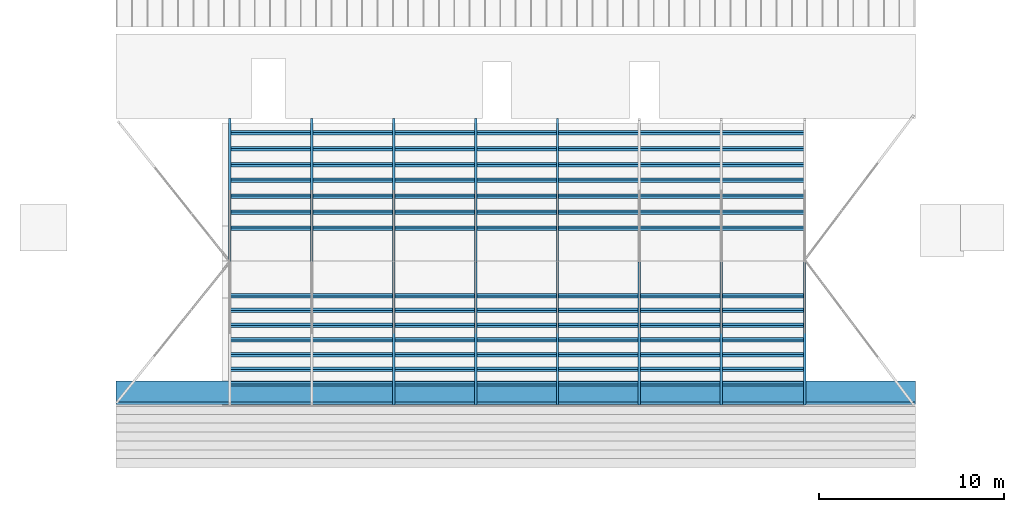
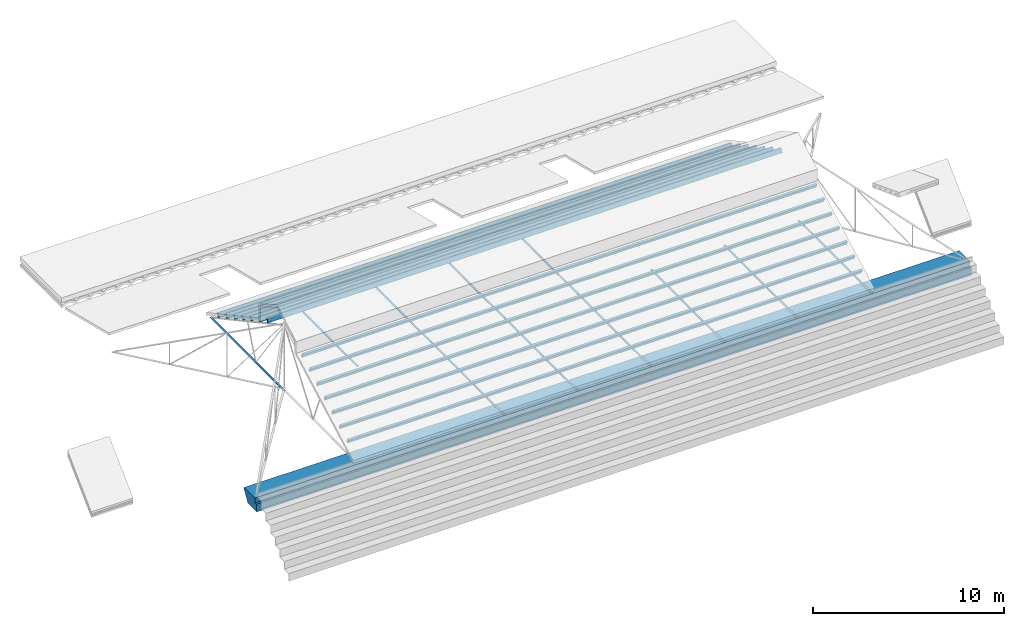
# One storey, part 7 of 15: 26 beams, 10 elements without a shape of their own.
"""IFC4 building model written with IfcOpenShell, lengths in metres."""

from ifc_helpers import new_model, entity, si_unit, converted_unit, derived_unit, direction, frame, origin, place, context, subcontext, project, spatial, line, arc, indexed_curve, outline, extrude, source, transform, mapped, material, type_object, type_shapes, element, aggregate, save


model = new_model("IFC4")

# Units and contexts
model_context = context("Model", 3, precision=1e-05, world=origin(), true_north=direction((6.123031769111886e-17, 1.0)))
body_context = subcontext(model_context, "Body", "Model", "MODEL_VIEW")
ifc_project = project(units=[si_unit("LENGTHUNIT", "METRE"), si_unit("AREAUNIT", "SQUARE_METRE"), si_unit("VOLUMEUNIT", "CUBIC_METRE"), converted_unit("PLANEANGLEUNIT", "DEGREE", entity("IfcRatioMeasure", 0.017453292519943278), si_unit("PLANEANGLEUNIT", "RADIAN"), dimensions=[0, 0, 0, 0, 0, 0, 0]), si_unit("MASSUNIT", "GRAM", prefix="KILO"), derived_unit("MASSDENSITYUNIT", [(si_unit("MASSUNIT", "GRAM", prefix="KILO"), 1), (si_unit("LENGTHUNIT", "METRE"), -3)]), derived_unit("MOMENTOFINERTIAUNIT", [(si_unit("LENGTHUNIT", "METRE"), 4)]), si_unit("TIMEUNIT", "SECOND"), si_unit("FREQUENCYUNIT", "HERTZ"), si_unit("THERMODYNAMICTEMPERATUREUNIT", "DEGREE_CELSIUS"), derived_unit("THERMALTRANSMITTANCEUNIT", [(si_unit("MASSUNIT", "GRAM", prefix="KILO"), 1), (si_unit("THERMODYNAMICTEMPERATUREUNIT", "KELVIN"), -1), (si_unit("TIMEUNIT", "SECOND"), -3)]), derived_unit("VOLUMETRICFLOWRATEUNIT", [(si_unit("LENGTHUNIT", "METRE"), 3), (si_unit("TIMEUNIT", "SECOND"), -1)]), derived_unit("MASSFLOWRATEUNIT", [(si_unit("MASSUNIT", "GRAM", prefix="KILO"), 1), (si_unit("TIMEUNIT", "SECOND"), -1)]), derived_unit("ROTATIONALFREQUENCYUNIT", [(si_unit("TIMEUNIT", "SECOND"), -1)]), si_unit("ELECTRICCURRENTUNIT", "AMPERE"), si_unit("ELECTRICVOLTAGEUNIT", "VOLT"), si_unit("POWERUNIT", "WATT"), si_unit("FORCEUNIT", "NEWTON", prefix="KILO"), si_unit("ILLUMINANCEUNIT", "LUX"), si_unit("LUMINOUSFLUXUNIT", "LUMEN"), si_unit("LUMINOUSINTENSITYUNIT", "CANDELA"), derived_unit("USERDEFINED", [(si_unit("MASSUNIT", "GRAM", prefix="KILO"), -1), (si_unit("LENGTHUNIT", "METRE"), -2), (si_unit("TIMEUNIT", "SECOND"), 3), (si_unit("LUMINOUSFLUXUNIT", "LUMEN"), 1)]), derived_unit("SOUNDPOWERUNIT", [(si_unit("MASSUNIT", "GRAM", prefix="KILO"), 1), (si_unit("LENGTHUNIT", "METRE"), 2), (si_unit("TIMEUNIT", "SECOND"), -3)]), derived_unit("SOUNDPRESSUREUNIT", [(si_unit("MASSUNIT", "GRAM", prefix="KILO"), 1), (si_unit("LENGTHUNIT", "METRE"), -1), (si_unit("TIMEUNIT", "SECOND"), -2)]), derived_unit("LINEARVELOCITYUNIT", [(si_unit("LENGTHUNIT", "METRE"), 1), (si_unit("TIMEUNIT", "SECOND"), -1)]), si_unit("PRESSUREUNIT", "PASCAL"), derived_unit("USERDEFINED", [(si_unit("LENGTHUNIT", "METRE"), -2), (si_unit("MASSUNIT", "GRAM", prefix="KILO"), 1), (si_unit("TIMEUNIT", "SECOND"), -2)]), derived_unit("LINEARFORCEUNIT", [(si_unit("MASSUNIT", "GRAM", prefix="KILO"), 1), (si_unit("LENGTHUNIT", "METRE"), 1), (si_unit("TIMEUNIT", "SECOND"), -2), (si_unit("LENGTHUNIT", "METRE"), -1)]), derived_unit("PLANARFORCEUNIT", [(si_unit("MASSUNIT", "GRAM", prefix="KILO"), 1), (si_unit("LENGTHUNIT", "METRE"), 1), (si_unit("TIMEUNIT", "SECOND"), -2), (si_unit("LENGTHUNIT", "METRE"), -2)])], contexts=[model_context])

# Site, building, storey
site_placement = place(None, origin())
site = spatial("IfcSite", under=ifc_project, at=site_placement, Name="Superficie", CompositionType="ELEMENT")
building_placement = place(site_placement, origin())
building = spatial("IfcBuilding", under=site, at=building_placement, CompositionType="ELEMENT")
storey_placement = place(building_placement, frame((0.0, 0.0, 7.25)))
storey = spatial("IfcBuildingStorey", under=building, at=storey_placement, Name="Nivel 2", CompositionType="ELEMENT", Elevation=7.25)

# Beam
ifc_material_1 = material(Name="<Unnamed>")
beam_type_1 = type_object("IfcBeamType", Name="Familia4:Familia4", PredefinedType="BEAM", material=ifc_material_1)
shared_shape_1 = source(origin(), body_context, "Body", "SweptSolid", [
    extrude(outline(indexed_curve([(-0.03876765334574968, -0.5432224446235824), (0.4612323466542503, -0.5432224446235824), (0.46123234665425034, 0.36677755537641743), (-0.1816431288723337, 0.753056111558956), (-0.3316431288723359, 0.7530561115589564), (-0.3316431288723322, -0.3932224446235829), (-0.03876765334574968, -0.3932224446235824), (-0.03876765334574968, -0.5432224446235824)], self_intersect=False)), frame((-21.33499999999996, 0.44322244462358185, 0.311232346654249), z_axis=(1.0, 0.0, 0.0), x_axis=(0.0, 0.0, -1.0)), (0.0, 0.0, 1.0), 43.23),
])
type_shapes(beam_type_1, [shared_shape_1])
beam_1_placement = place(storey_placement, frame((-1.308200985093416, -9.594451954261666, -0.6428754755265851)))
element("IfcBeam", 1, at=beam_1_placement, inside=storey, type_object=beam_type_1, material=ifc_material_1, Name="Familia4:Familia4", ObjectType="Familia4:Familia4", PredefinedType="BEAM", context=body_context, shape_type="MappedRepresentation", body=[
    mapped(shared_shape_1, transform((0.0, 0.0, 0.0), scale=1.0)),
])

# Assembly, beam
assembly_1_placement = place(storey_placement, origin())
assembly_1 = element("IfcElementAssembly", 2, at=assembly_1_placement, inside=storey, Name="Cercha 3:Cercha 3", ObjectType="Cercha 3:Cercha 3", AssemblyPlace="NOTDEFINED", PredefinedType="TRUSS")
ifc_material_2 = material(Name="Metal - Acero - 345 MPa", Category="Metal")
beam_type_2 = type_object("IfcBeamType", Name="MT-T estructural:MT65X14.05", PredefinedType="BEAM", material=ifc_material_2)
shared_shape_2 = source(origin(), body_context, "Body", "SweptSolid", [
    extrude(outline(indexed_curve([(-0.003999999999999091, -0.04376000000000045), (0.004000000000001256, -0.04376000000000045), (0.004000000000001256, 0.005740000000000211), (0.00499583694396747, 0.008144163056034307), (0.0074000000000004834, 0.009140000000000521), (0.06350000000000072, 0.009140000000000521), (0.06350000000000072, 0.019740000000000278), (-0.06349999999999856, 0.019740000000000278), (-0.06349999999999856, 0.009140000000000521), (-0.007399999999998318, 0.009140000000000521), (-0.004995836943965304, 0.008144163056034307), (-0.003999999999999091, 0.005740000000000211)], segments=[line(1, 2, 3), arc(3, 4, 5), line(5, 6, 7, 8, 9, 10), arc(10, 11, 12), line(12, 1)], self_intersect=False)), frame((14.597348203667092, -9.703381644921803, 7.370715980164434), z_axis=(0.0, 1.0, 0.0), x_axis=(-1.0, 0.0, 0.0)), (0.0, 0.0, 1.0), 7.731000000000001),
])
type_shapes(beam_type_2, [shared_shape_2])
beam_2_placement = place(assembly_1_placement, frame((0.0, 0.0, -7.25)))
beam_2 = element("IfcBeam", 3, at=beam_2_placement, type_object=beam_type_2, material=ifc_material_2, Name="MT-T estructural:MT65X14.05", ObjectType="MT-T estructural:MT65X14.05", PredefinedType="BEAM", context=body_context, shape_type="MappedRepresentation", body=[
    mapped(shared_shape_2, transform((0.0, 0.0, 0.0), scale=1.0)),
])
aggregate(assembly_1, [beam_2])

assembly_2_placement = place(storey_placement, origin())
assembly_2 = element("IfcElementAssembly", 4, at=assembly_2_placement, inside=storey, Name="Cercha 3:Cercha 3", ObjectType="Cercha 3:Cercha 3", AssemblyPlace="NOTDEFINED", PredefinedType="TRUSS")
beam_type_3 = type_object("IfcBeamType", Name="MT-T estructural:MT65X14.05", PredefinedType="BEAM", material=ifc_material_2)
shared_shape_3 = source(origin(), body_context, "Body", "SweptSolid", [
    extrude(outline(indexed_curve([(-0.004000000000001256, -0.04376000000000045), (0.003999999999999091, -0.04376000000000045), (0.003999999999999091, 0.005740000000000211), (0.004995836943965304, 0.008144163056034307), (0.007399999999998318, 0.009140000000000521), (0.06349999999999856, 0.009140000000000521), (0.06349999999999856, 0.019740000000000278), (-0.06350000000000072, 0.019740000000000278), (-0.06350000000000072, 0.009140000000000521), (-0.0074000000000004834, 0.009140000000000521), (-0.00499583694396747, 0.008144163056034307), (-0.004000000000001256, 0.005740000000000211)], segments=[line(1, 2, 3), arc(3, 4, 5), line(5, 6, 7, 8, 9, 10), arc(10, 11, 12), line(12, 1)], self_intersect=False)), frame((-12.062651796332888, -1.9592410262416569, 7.370715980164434), z_axis=(0.0, 1.0, 0.0), x_axis=(-1.0, 0.0, 0.0)), (0.0, 0.0, 1.0), 7.744000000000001),
])
type_shapes(beam_type_3, [shared_shape_3])
beam_3_placement = place(assembly_2_placement, frame((0.0, 0.0, -7.25)))
beam_3 = element("IfcBeam", 5, at=beam_3_placement, type_object=beam_type_3, material=ifc_material_2, Name="MT-T estructural:MT65X14.05", ObjectType="MT-T estructural:MT65X14.05", PredefinedType="BEAM", context=body_context, shape_type="MappedRepresentation", body=[
    mapped(shared_shape_3, transform((0.0, 0.0, 0.0), scale=1.0)),
])
aggregate(assembly_2, [beam_3])

assembly_3_placement = place(storey_placement, origin())
assembly_3 = element("IfcElementAssembly", 6, at=assembly_3_placement, inside=storey, Name="Cercha 3:Cercha 3", ObjectType="Cercha 3:Cercha 3", AssemblyPlace="NOTDEFINED", PredefinedType="TRUSS")
beam_type_4 = type_object("IfcBeamType", Name="MT-T estructural:MT65X14.05", PredefinedType="BEAM", material=ifc_material_2)
shared_shape_4 = source(origin(), body_context, "Body", "SweptSolid", [
    extrude(outline(indexed_curve([(-0.004000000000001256, -0.04376000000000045), (0.003999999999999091, -0.04376000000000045), (0.003999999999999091, 0.005740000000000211), (0.004995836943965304, 0.008144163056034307), (0.007399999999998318, 0.009140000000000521), (0.06349999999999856, 0.009140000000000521), (0.06349999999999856, 0.019740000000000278), (-0.06350000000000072, 0.019740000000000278), (-0.06350000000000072, 0.009140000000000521), (-0.0074000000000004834, 0.009140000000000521), (-0.00499583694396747, 0.008144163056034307), (-0.004000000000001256, 0.005740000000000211)], segments=[line(1, 2, 3), arc(3, 4, 5), line(5, 6, 7, 8, 9, 10), arc(10, 11, 12), line(12, 1)], self_intersect=False)), frame((-16.492651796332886, -1.9592410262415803, 7.370715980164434), z_axis=(0.0, 1.0, 0.0), x_axis=(-1.0, 0.0, 0.0)), (0.0, 0.0, 1.0), 7.744000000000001),
])
type_shapes(beam_type_4, [shared_shape_4])
beam_4_placement = place(assembly_3_placement, frame((0.0, 0.0, -7.25)))
beam_4 = element("IfcBeam", 7, at=beam_4_placement, type_object=beam_type_4, material=ifc_material_2, Name="MT-T estructural:MT65X14.05", ObjectType="MT-T estructural:MT65X14.05", PredefinedType="BEAM", context=body_context, shape_type="MappedRepresentation", body=[
    mapped(shared_shape_4, transform((0.0, 0.0, 0.0), scale=1.0)),
])
aggregate(assembly_3, [beam_4])

# Assembly, beams
assembly_4_placement = place(storey_placement, origin())
assembly_4 = element("IfcElementAssembly", 8, at=assembly_4_placement, inside=storey, Name="Sistema de vigas estructurales:Sistema de vigas estructurales", ObjectType="Sistema de vigas estructurales:Sistema de vigas estructurales", AssemblyPlace="NOTDEFINED", PredefinedType="BEAM_GRID")
ifc_material_3 = material(Name="Madera - Madera de construcción", Category="Madera")
beam_type_5 = type_object("IfcBeamType", Name="Glulam-Pino del sur:127X279", PredefinedType="BEAM", material=ifc_material_3)
shared_shape_5 = source(origin(), body_context, "Body", "SweptSolid", [
    extrude(outline(indexed_curve([(-0.13949999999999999, -0.06350000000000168), (0.13949999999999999, -0.06350000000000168), (0.13949999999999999, 0.06350000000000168), (-0.13949999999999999, 0.06350000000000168), (-0.13949999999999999, -0.06350000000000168)], self_intersect=False)), frame((-15.544999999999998, 0.0, 0.0), z_axis=(1.0, 0.0, 0.0), x_axis=(0.0, 0.0, -1.0)), (0.0, 0.0, 1.0), 31.09),
])
type_shapes(beam_type_5, [shared_shape_5])
beam_5_placement = place(assembly_4_placement, frame((-0.9476517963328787, 5.0188303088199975, 0.7136606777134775), z_axis=(0.0, 0.4764084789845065, 0.8792240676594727), x_axis=(-1.0, 0.0, 0.0)))
beam_5 = element("IfcBeam", 9, at=beam_5_placement, type_object=beam_type_5, material=ifc_material_3, Name="Glulam-Pino del sur:127X279", ObjectType="Glulam-Pino del sur:127X279", PredefinedType="BEAM", context=body_context, shape_type="MappedRepresentation", body=[
    mapped(shared_shape_5, transform((0.0, 0.0, 0.0), scale=1.0)),
])
beam_6_placement = place(assembly_4_placement, frame((-0.9476517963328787, 4.158652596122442, 1.179748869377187), z_axis=(0.0, 0.4764084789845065, 0.8792240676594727), x_axis=(-1.0, 0.0, 0.0)))
beam_6 = element("IfcBeam", 10, at=beam_6_placement, type_object=beam_type_5, material=ifc_material_3, Name="Glulam-Pino del sur:127X279", ObjectType="Glulam-Pino del sur:127X279", PredefinedType="BEAM", context=body_context, shape_type="MappedRepresentation", body=[
    mapped(shared_shape_5, transform((0.0, 0.0, 0.0), scale=1.0)),
])
beam_7_placement = place(assembly_4_placement, frame((-0.9476517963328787, 3.298474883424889, 1.645837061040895), z_axis=(0.0, 0.4764084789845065, 0.8792240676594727), x_axis=(-1.0, 0.0, 0.0)))
beam_7 = element("IfcBeam", 11, at=beam_7_placement, type_object=beam_type_5, material=ifc_material_3, Name="Glulam-Pino del sur:127X279", ObjectType="Glulam-Pino del sur:127X279", PredefinedType="BEAM", context=body_context, shape_type="MappedRepresentation", body=[
    mapped(shared_shape_5, transform((0.0, 0.0, 0.0), scale=1.0)),
])
beam_8_placement = place(assembly_4_placement, frame((-0.9476517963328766, 2.438297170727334, 2.1119252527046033), z_axis=(0.0, 0.4764084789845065, 0.8792240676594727), x_axis=(-1.0, 0.0, 0.0)))
beam_8 = element("IfcBeam", 12, at=beam_8_placement, type_object=beam_type_5, material=ifc_material_3, Name="Glulam-Pino del sur:127X279", ObjectType="Glulam-Pino del sur:127X279", PredefinedType="BEAM", context=body_context, shape_type="MappedRepresentation", body=[
    mapped(shared_shape_5, transform((0.0, 0.0, 0.0), scale=1.0)),
])
beam_9_placement = place(assembly_4_placement, frame((-0.9476517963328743, 1.578119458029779, 2.578013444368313), z_axis=(0.0, 0.4764084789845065, 0.8792240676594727), x_axis=(-1.0, 0.0, 0.0)))
beam_9 = element("IfcBeam", 13, at=beam_9_placement, type_object=beam_type_5, material=ifc_material_3, Name="Glulam-Pino del sur:127X279", ObjectType="Glulam-Pino del sur:127X279", PredefinedType="BEAM", context=body_context, shape_type="MappedRepresentation", body=[
    mapped(shared_shape_5, transform((0.0, 0.0, 0.0), scale=1.0)),
])
beam_10_placement = place(assembly_4_placement, frame((-0.9476517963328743, 0.7179417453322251, 3.044101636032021), z_axis=(0.0, 0.4764084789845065, 0.8792240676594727), x_axis=(-1.0, 0.0, 0.0)))
beam_10 = element("IfcBeam", 14, at=beam_10_placement, type_object=beam_type_5, material=ifc_material_3, Name="Glulam-Pino del sur:127X279", ObjectType="Glulam-Pino del sur:127X279", PredefinedType="BEAM", context=body_context, shape_type="MappedRepresentation", body=[
    mapped(shared_shape_5, transform((0.0, 0.0, 0.0), scale=1.0)),
])
beam_11_placement = place(assembly_4_placement, frame((-0.9476517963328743, -0.14223596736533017, 3.510189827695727), z_axis=(0.0, 0.4764084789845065, 0.8792240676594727), x_axis=(-1.0, 0.0, 0.0)))
beam_11 = element("IfcBeam", 15, at=beam_11_placement, type_object=beam_type_5, material=ifc_material_3, Name="Glulam-Pino del sur:127X279", ObjectType="Glulam-Pino del sur:127X279", PredefinedType="BEAM", context=body_context, shape_type="MappedRepresentation", body=[
    mapped(shared_shape_5, transform((0.0, 0.0, 0.0), scale=1.0)),
])
aggregate(assembly_4, [beam_5, beam_6, beam_7, beam_8, beam_9, beam_10, beam_11])

assembly_5_placement = place(storey_placement, origin())
assembly_5 = element("IfcElementAssembly", 16, at=assembly_5_placement, inside=storey, Name="Sistema de vigas estructurales:Sistema de vigas estructurales", ObjectType="Sistema de vigas estructurales:Sistema de vigas estructurales", AssemblyPlace="NOTDEFINED", PredefinedType="BEAM_GRID")
beam_12_placement = place(assembly_5_placement, frame((-0.9476517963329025, -8.56749087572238, 0.9141250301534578), z_axis=(0.0, -0.4764084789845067, 0.8792240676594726), x_axis=(-1.0, 0.0, 0.0)))
beam_12 = element("IfcBeam", 17, at=beam_12_placement, type_object=beam_type_5, material=ifc_material_3, Name="Glulam-Pino del sur:127X279", ObjectType="Glulam-Pino del sur:127X279", PredefinedType="BEAM", context=body_context, shape_type="MappedRepresentation", body=[
    mapped(shared_shape_5, transform((0.0, 0.0, 0.0), scale=1.0)),
])
beam_13_placement = place(assembly_5_placement, frame((-0.9476517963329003, -7.772837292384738, 1.3447089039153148), z_axis=(0.0, -0.4764084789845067, 0.8792240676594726), x_axis=(-1.0, 0.0, 0.0)))
beam_13 = element("IfcBeam", 18, at=beam_13_placement, type_object=beam_type_5, material=ifc_material_3, Name="Glulam-Pino del sur:127X279", ObjectType="Glulam-Pino del sur:127X279", PredefinedType="BEAM", context=body_context, shape_type="MappedRepresentation", body=[
    mapped(shared_shape_5, transform((0.0, 0.0, 0.0), scale=1.0)),
])
beam_14_placement = place(assembly_5_placement, frame((-0.9476517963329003, -6.978183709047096, 1.7752927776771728), z_axis=(0.0, -0.4764084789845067, 0.8792240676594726), x_axis=(-1.0, 0.0, 0.0)))
beam_14 = element("IfcBeam", 19, at=beam_14_placement, type_object=beam_type_5, material=ifc_material_3, Name="Glulam-Pino del sur:127X279", ObjectType="Glulam-Pino del sur:127X279", PredefinedType="BEAM", context=body_context, shape_type="MappedRepresentation", body=[
    mapped(shared_shape_5, transform((0.0, 0.0, 0.0), scale=1.0)),
])
beam_15_placement = place(assembly_5_placement, frame((-0.9476517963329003, -6.183530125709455, 2.205876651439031), z_axis=(0.0, -0.4764084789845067, 0.8792240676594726), x_axis=(-1.0, 0.0, 0.0)))
beam_15 = element("IfcBeam", 20, at=beam_15_placement, type_object=beam_type_5, material=ifc_material_3, Name="Glulam-Pino del sur:127X279", ObjectType="Glulam-Pino del sur:127X279", PredefinedType="BEAM", context=body_context, shape_type="MappedRepresentation", body=[
    mapped(shared_shape_5, transform((0.0, 0.0, 0.0), scale=1.0)),
])
beam_16_placement = place(assembly_5_placement, frame((-0.9476517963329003, -5.388876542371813, 2.636460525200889), z_axis=(0.0, -0.4764084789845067, 0.8792240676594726), x_axis=(-1.0, 0.0, 0.0)))
beam_16 = element("IfcBeam", 21, at=beam_16_placement, type_object=beam_type_5, material=ifc_material_3, Name="Glulam-Pino del sur:127X279", ObjectType="Glulam-Pino del sur:127X279", PredefinedType="BEAM", context=body_context, shape_type="MappedRepresentation", body=[
    mapped(shared_shape_5, transform((0.0, 0.0, 0.0), scale=1.0)),
])
beam_17_placement = place(assembly_5_placement, frame((-0.9476517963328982, -4.594222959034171, 3.0670443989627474), z_axis=(0.0, -0.4764084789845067, 0.8792240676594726), x_axis=(-1.0, 0.0, 0.0)))
beam_17 = element("IfcBeam", 22, at=beam_17_placement, type_object=beam_type_5, material=ifc_material_3, Name="Glulam-Pino del sur:127X279", ObjectType="Glulam-Pino del sur:127X279", PredefinedType="BEAM", context=body_context, shape_type="MappedRepresentation", body=[
    mapped(shared_shape_5, transform((0.0, 0.0, 0.0), scale=1.0)),
])
beam_18_placement = place(assembly_5_placement, frame((-0.9476517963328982, -3.7995693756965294, 3.497628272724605), z_axis=(0.0, -0.4764084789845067, 0.8792240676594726), x_axis=(-1.0, 0.0, 0.0)))
beam_18 = element("IfcBeam", 23, at=beam_18_placement, type_object=beam_type_5, material=ifc_material_3, Name="Glulam-Pino del sur:127X279", ObjectType="Glulam-Pino del sur:127X279", PredefinedType="BEAM", context=body_context, shape_type="MappedRepresentation", body=[
    mapped(shared_shape_5, transform((0.0, 0.0, 0.0), scale=1.0)),
])
aggregate(assembly_5, [beam_12, beam_13, beam_14, beam_15, beam_16, beam_17, beam_18])

assembly_6_placement = place(storey_placement, origin())
assembly_6 = element("IfcElementAssembly", 24, at=assembly_6_placement, inside=storey, Name="Cercha 3:Cercha 3", ObjectType="Cercha 3:Cercha 3", AssemblyPlace="NOTDEFINED", PredefinedType="TRUSS")
beam_type_6 = type_object("IfcBeamType", Name="MT-T estructural:MT65X14.05", PredefinedType="BEAM", material=ifc_material_2)
shared_shape_6 = source(origin(), body_context, "Body", "SweptSolid", [
    extrude(outline(indexed_curve([(-0.0040000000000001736, -0.04376000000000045), (0.0040000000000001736, -0.04376000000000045), (0.003999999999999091, 0.005740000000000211), (0.004995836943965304, 0.008144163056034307), (0.007399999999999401, 0.009140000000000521), (0.06349999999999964, 0.009140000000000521), (0.06349999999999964, 0.019740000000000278), (-0.06350000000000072, 0.019740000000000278), (-0.06350000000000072, 0.009140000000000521), (-0.0074000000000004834, 0.009140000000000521), (-0.004995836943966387, 0.008144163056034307), (-0.0040000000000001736, 0.005740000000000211)], segments=[line(1, 2, 3), arc(3, 4, 5), line(5, 6, 7, 8, 9, 10), arc(10, 11, 12), line(12, 1)], self_intersect=False)), frame((-7.632651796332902, -9.703381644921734, 7.370715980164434), z_axis=(0.0, 1.0, 0.0), x_axis=(-1.0, 0.0, 0.0)), (0.0, 0.0, 1.0), 7.731000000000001),
])
type_shapes(beam_type_6, [shared_shape_6])
beam_19_placement = place(assembly_6_placement, frame((0.0, 0.0, -7.25)))
beam_19 = element("IfcBeam", 25, at=beam_19_placement, type_object=beam_type_6, material=ifc_material_2, Name="MT-T estructural:MT65X14.05", ObjectType="MT-T estructural:MT65X14.05", PredefinedType="BEAM", context=body_context, shape_type="MappedRepresentation", body=[
    mapped(shared_shape_6, transform((0.0, 0.0, 0.0), scale=1.0)),
])
beam_type_7 = type_object("IfcBeamType", Name="MT-T estructural:MT65X14.05", PredefinedType="BEAM", material=ifc_material_2)
shared_shape_7 = source(origin(), body_context, "Body", "SweptSolid", [
    extrude(outline(indexed_curve([(-0.004000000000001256, -0.04376000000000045), (0.003999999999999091, -0.04376000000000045), (0.003999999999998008, 0.005740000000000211), (0.004995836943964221, 0.008144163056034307), (0.007399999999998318, 0.009140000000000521), (0.06349999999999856, 0.009140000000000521), (0.06349999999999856, 0.019740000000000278), (-0.0635000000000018, 0.019740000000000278), (-0.0635000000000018, 0.009140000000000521), (-0.007400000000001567, 0.009140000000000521), (-0.00499583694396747, 0.008144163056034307), (-0.004000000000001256, 0.005740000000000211)], segments=[line(1, 2, 3), arc(3, 4, 5), line(5, 6, 7, 8, 9, 10), arc(10, 11, 12), line(12, 1)], self_intersect=False)), frame((-7.63265179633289, -1.9592410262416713, 7.370715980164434), z_axis=(0.0, 1.0, 0.0), x_axis=(-1.0, 0.0, 0.0)), (0.0, 0.0, 1.0), 7.744000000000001),
])
type_shapes(beam_type_7, [shared_shape_7])
beam_20_placement = place(assembly_6_placement, frame((0.0, 0.0, -7.25)))
beam_20 = element("IfcBeam", 26, at=beam_20_placement, type_object=beam_type_7, material=ifc_material_2, Name="MT-T estructural:MT65X14.05", ObjectType="MT-T estructural:MT65X14.05", PredefinedType="BEAM", context=body_context, shape_type="MappedRepresentation", body=[
    mapped(shared_shape_7, transform((0.0, 0.0, 0.0), scale=1.0)),
])
aggregate(assembly_6, [beam_19, beam_20])

assembly_7_placement = place(storey_placement, origin())
assembly_7 = element("IfcElementAssembly", 27, at=assembly_7_placement, inside=storey, Name="Cercha 3:Cercha 3", ObjectType="Cercha 3:Cercha 3", AssemblyPlace="NOTDEFINED", PredefinedType="TRUSS")
beam_type_8 = type_object("IfcBeamType", Name="MT-T estructural:MT65X14.05", PredefinedType="BEAM", material=ifc_material_2)
shared_shape_8 = source(origin(), body_context, "Body", "SweptSolid", [
    extrude(outline(indexed_curve([(-0.003999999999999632, -0.04376000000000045), (0.0040000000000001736, -0.04376000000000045), (0.0040000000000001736, 0.005740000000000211), (0.004995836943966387, 0.008144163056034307), (0.0074000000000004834, 0.009140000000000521), (0.06349999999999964, 0.009140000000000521), (0.06349999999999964, 0.019740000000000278), (-0.06349999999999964, 0.019740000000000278), (-0.06349999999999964, 0.009140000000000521), (-0.007399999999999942, 0.009139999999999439), (-0.004995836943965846, 0.008144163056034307), (-0.003999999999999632, 0.005740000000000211)], segments=[line(1, 2, 3), arc(3, 4, 5), line(5, 6, 7, 8, 9, 10), arc(10, 11, 12), line(12, 1)], self_intersect=False)), frame((-3.2026517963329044, -9.703381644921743, 7.370715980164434), z_axis=(0.0, 1.0, 0.0), x_axis=(-1.0, 0.0, 0.0)), (0.0, 0.0, 1.0), 7.731000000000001),
])
type_shapes(beam_type_8, [shared_shape_8])
beam_21_placement = place(assembly_7_placement, frame((0.0, 0.0, -7.25)))
beam_21 = element("IfcBeam", 28, at=beam_21_placement, type_object=beam_type_8, material=ifc_material_2, Name="MT-T estructural:MT65X14.05", ObjectType="MT-T estructural:MT65X14.05", PredefinedType="BEAM", context=body_context, shape_type="MappedRepresentation", body=[
    mapped(shared_shape_8, transform((0.0, 0.0, 0.0), scale=1.0)),
])
beam_type_9 = type_object("IfcBeamType", Name="MT-T estructural:MT65X14.05", PredefinedType="BEAM", material=ifc_material_2)
shared_shape_9 = source(origin(), body_context, "Body", "SweptSolid", [
    extrude(outline(indexed_curve([(-0.004000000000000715, -0.04376000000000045), (0.003999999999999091, -0.04376000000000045), (0.003999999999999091, 0.005740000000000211), (0.004995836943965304, 0.008144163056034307), (0.007399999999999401, 0.009140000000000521), (0.06349999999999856, 0.009140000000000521), (0.06349999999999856, 0.019740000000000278), (-0.06350000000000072, 0.019740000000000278), (-0.06350000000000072, 0.009140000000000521), (-0.007400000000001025, 0.009139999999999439), (-0.004995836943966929, 0.008144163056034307), (-0.004000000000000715, 0.005740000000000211)], segments=[line(1, 2, 3), arc(3, 4, 5), line(5, 6, 7, 8, 9, 10), arc(10, 11, 12), line(12, 1)], self_intersect=False)), frame((-3.2026517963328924, -1.9592410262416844, 7.370715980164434), z_axis=(0.0, 1.0, 0.0), x_axis=(-1.0, 0.0, 0.0)), (0.0, 0.0, 1.0), 7.744000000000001),
])
type_shapes(beam_type_9, [shared_shape_9])
beam_22_placement = place(assembly_7_placement, frame((0.0, 0.0, -7.25)))
beam_22 = element("IfcBeam", 29, at=beam_22_placement, type_object=beam_type_9, material=ifc_material_2, Name="MT-T estructural:MT65X14.05", ObjectType="MT-T estructural:MT65X14.05", PredefinedType="BEAM", context=body_context, shape_type="MappedRepresentation", body=[
    mapped(shared_shape_9, transform((0.0, 0.0, 0.0), scale=1.0)),
])
aggregate(assembly_7, [beam_21, beam_22])

assembly_8_placement = place(storey_placement, origin())
assembly_8 = element("IfcElementAssembly", 30, at=assembly_8_placement, inside=storey, Name="Cercha 3:Cercha 3", ObjectType="Cercha 3:Cercha 3", AssemblyPlace="NOTDEFINED", PredefinedType="TRUSS")
beam_type_10 = type_object("IfcBeamType", Name="MT-T estructural:MT65X14.05", PredefinedType="BEAM", material=ifc_material_2)
shared_shape_10 = source(origin(), body_context, "Body", "SweptSolid", [
    extrude(outline(indexed_curve([(-0.003999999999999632, -0.04376000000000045), (0.004000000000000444, -0.04376000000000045), (0.0040000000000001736, 0.005740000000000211), (0.004995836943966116, 0.008144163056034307), (0.007400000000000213, 0.009140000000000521), (0.06349999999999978, 0.009140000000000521), (0.06349999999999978, 0.019740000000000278), (-0.06349999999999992, 0.019740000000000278), (-0.06349999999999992, 0.009140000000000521), (-0.007399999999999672, 0.009140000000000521), (-0.004995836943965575, 0.008144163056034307), (-0.003999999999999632, 0.005740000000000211)], segments=[line(1, 2, 3), arc(3, 4, 5), line(5, 6, 7, 8, 9, 10), arc(10, 11, 12), line(12, 1)], self_intersect=False)), frame((1.227348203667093, -9.70338164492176, 7.370715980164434), z_axis=(0.0, 1.0, 0.0), x_axis=(-1.0, 0.0, 0.0)), (0.0, 0.0, 1.0), 7.731000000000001),
])
type_shapes(beam_type_10, [shared_shape_10])
beam_23_placement = place(assembly_8_placement, frame((0.0, 0.0, -7.25)))
beam_23 = element("IfcBeam", 31, at=beam_23_placement, type_object=beam_type_10, material=ifc_material_2, Name="MT-T estructural:MT65X14.05", ObjectType="MT-T estructural:MT65X14.05", PredefinedType="BEAM", context=body_context, shape_type="MappedRepresentation", body=[
    mapped(shared_shape_10, transform((0.0, 0.0, 0.0), scale=1.0)),
])
beam_type_11 = type_object("IfcBeamType", Name="MT-T estructural:MT65X14.05", PredefinedType="BEAM", material=ifc_material_2)
shared_shape_11 = source(origin(), body_context, "Body", "SweptSolid", [
    extrude(outline(indexed_curve([(-0.003999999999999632, -0.04376000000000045), (0.004000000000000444, -0.04376000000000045), (0.0040000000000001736, 0.005740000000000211), (0.004995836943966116, 0.008144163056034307), (0.007400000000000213, 0.009140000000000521), (0.06349999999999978, 0.009140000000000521), (0.06349999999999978, 0.019740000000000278), (-0.06349999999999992, 0.019740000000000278), (-0.06349999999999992, 0.009140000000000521), (-0.007399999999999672, 0.009140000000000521), (-0.004995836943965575, 0.008144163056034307), (-0.003999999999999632, 0.005740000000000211)], segments=[line(1, 2, 3), arc(3, 4, 5), line(5, 6, 7, 8, 9, 10), arc(10, 11, 12), line(12, 1)], self_intersect=False)), frame((1.227348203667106, -1.9592410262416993, 7.370715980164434), z_axis=(0.0, 1.0, 0.0), x_axis=(-1.0, 0.0, 0.0)), (0.0, 0.0, 1.0), 7.744000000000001),
])
type_shapes(beam_type_11, [shared_shape_11])
beam_24_placement = place(assembly_8_placement, frame((0.0, 0.0, -7.25)))
beam_24 = element("IfcBeam", 32, at=beam_24_placement, type_object=beam_type_11, material=ifc_material_2, Name="MT-T estructural:MT65X14.05", ObjectType="MT-T estructural:MT65X14.05", PredefinedType="BEAM", context=body_context, shape_type="MappedRepresentation", body=[
    mapped(shared_shape_11, transform((0.0, 0.0, 0.0), scale=1.0)),
])
aggregate(assembly_8, [beam_23, beam_24])

# Assembly, beam
assembly_9_placement = place(storey_placement, origin())
assembly_9 = element("IfcElementAssembly", 33, at=assembly_9_placement, inside=storey, Name="Cercha 3:Cercha 3", ObjectType="Cercha 3:Cercha 3", AssemblyPlace="NOTDEFINED", PredefinedType="TRUSS")
beam_type_12 = type_object("IfcBeamType", Name="MT-T estructural:MT65X14.05", PredefinedType="BEAM", material=ifc_material_2)
shared_shape_12 = source(origin(), body_context, "Body", "SweptSolid", [
    extrude(outline(indexed_curve([(-0.003999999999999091, -0.04376000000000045), (0.004000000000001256, -0.04376000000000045), (0.0040000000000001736, 0.005740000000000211), (0.004995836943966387, 0.008144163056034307), (0.0074000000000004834, 0.009140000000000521), (0.06350000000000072, 0.009140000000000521), (0.06350000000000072, 0.019740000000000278), (-0.06349999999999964, 0.019740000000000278), (-0.06349999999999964, 0.009140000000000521), (-0.007399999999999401, 0.009140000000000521), (-0.004995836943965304, 0.008144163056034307), (-0.003999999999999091, 0.005740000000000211)], segments=[line(1, 2, 3), arc(3, 4, 5), line(5, 6, 7, 8, 9, 10), arc(10, 11, 12), line(12, 1)], self_intersect=False)), frame((5.657348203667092, -9.703381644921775, 7.370715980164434), z_axis=(0.0, 1.0, 0.0), x_axis=(-1.0, 0.0, 0.0)), (0.0, 0.0, 1.0), 7.731000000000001),
])
type_shapes(beam_type_12, [shared_shape_12])
beam_25_placement = place(assembly_9_placement, frame((0.0, 0.0, -7.25)))
beam_25 = element("IfcBeam", 34, at=beam_25_placement, type_object=beam_type_12, material=ifc_material_2, Name="MT-T estructural:MT65X14.05", ObjectType="MT-T estructural:MT65X14.05", PredefinedType="BEAM", context=body_context, shape_type="MappedRepresentation", body=[
    mapped(shared_shape_12, transform((0.0, 0.0, 0.0), scale=1.0)),
])
aggregate(assembly_9, [beam_25])

assembly_10_placement = place(storey_placement, origin())
assembly_10 = element("IfcElementAssembly", 35, at=assembly_10_placement, inside=storey, Name="Cercha 3:Cercha 3", ObjectType="Cercha 3:Cercha 3", AssemblyPlace="NOTDEFINED", PredefinedType="TRUSS")
beam_type_13 = type_object("IfcBeamType", Name="MT-T estructural:MT65X14.05", PredefinedType="BEAM", material=ifc_material_2)
shared_shape_13 = source(origin(), body_context, "Body", "SweptSolid", [
    extrude(outline(indexed_curve([(-0.003999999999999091, -0.04376000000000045), (0.004000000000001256, -0.04376000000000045), (0.004000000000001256, 0.005740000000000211), (0.00499583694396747, 0.008144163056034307), (0.0074000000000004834, 0.009140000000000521), (0.06350000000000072, 0.009140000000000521), (0.06350000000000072, 0.019740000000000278), (-0.06349999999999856, 0.019740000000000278), (-0.06349999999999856, 0.009140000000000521), (-0.007399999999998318, 0.009140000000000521), (-0.004995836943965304, 0.008144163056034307), (-0.003999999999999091, 0.005740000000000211)], segments=[line(1, 2, 3), arc(3, 4, 5), line(5, 6, 7, 8, 9, 10), arc(10, 11, 12), line(12, 1)], self_intersect=False)), frame((10.08734820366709, -9.703381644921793, 7.370715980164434), z_axis=(0.0, 1.0, 0.0), x_axis=(-1.0, 0.0, 0.0)), (0.0, 0.0, 1.0), 7.731000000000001),
])
type_shapes(beam_type_13, [shared_shape_13])
beam_26_placement = place(assembly_10_placement, frame((0.0, 0.0, -7.25)))
beam_26 = element("IfcBeam", 36, at=beam_26_placement, type_object=beam_type_13, material=ifc_material_2, Name="MT-T estructural:MT65X14.05", ObjectType="MT-T estructural:MT65X14.05", PredefinedType="BEAM", context=body_context, shape_type="MappedRepresentation", body=[
    mapped(shared_shape_13, transform((0.0, 0.0, 0.0), scale=1.0)),
])
aggregate(assembly_10, [beam_26])

save(model, "model.ifc")
